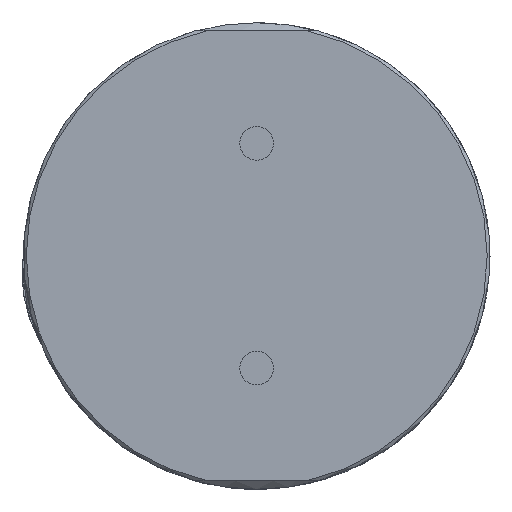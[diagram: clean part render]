
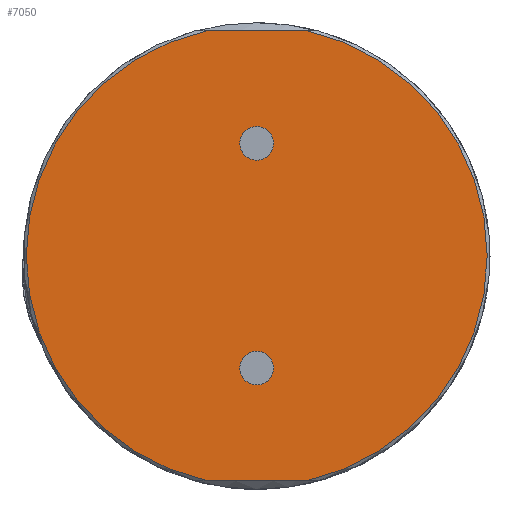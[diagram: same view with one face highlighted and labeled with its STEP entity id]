
A CAD part, top view. The second image highlights one B-rep face of the part: STEP entity #7050.
In plain terms, the highlighted planar face has unit normal (0, 0, 1).
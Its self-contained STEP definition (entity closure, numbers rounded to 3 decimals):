
#102 = VERTEX_POINT ( 'NONE', #9786 ) ;
#131 = EDGE_CURVE ( 'NONE', #17563, #5014, #10122, .T. ) ;
#1362 = CARTESIAN_POINT ( 'NONE',  ( 9., -40., 42. ) ) ;
#1460 = CIRCLE ( 'NONE', #10429, 3. ) ;
#1881 = CARTESIAN_POINT ( 'NONE',  ( -32.875, 40., 42. ) ) ;
#4517 = LINE ( 'NONE', #1881, #22561 ) ;
#4713 = ORIENTED_EDGE ( 'NONE', *, *, #29770, .T. ) ;
#5014 = VERTEX_POINT ( 'NONE', #29981 ) ;
#5610 = DIRECTION ( 'NONE',  ( 1., 0., 0. ) ) ;
#6154 = CIRCLE ( 'NONE', #17798, 41. ) ;
#6658 = CIRCLE ( 'NONE', #14066, 41. ) ;
#6840 = EDGE_LOOP ( 'NONE', ( #24480 ) ) ;
#7050 = ADVANCED_FACE ( 'NONE', ( #26232, #13733, #8750 ), #18789, .T. ) ;
#7959 = EDGE_CURVE ( 'NONE', #26824, #26824, #1460, .T. ) ;
#8750 = FACE_OUTER_BOUND ( 'NONE', #16490, .T. ) ;
#8802 = CARTESIAN_POINT ( 'NONE',  ( 0., 0., 42. ) ) ;
#9725 = DIRECTION ( 'NONE',  ( 1., 0., 0. ) ) ;
#9786 = CARTESIAN_POINT ( 'NONE',  ( -9., 40., 42. ) ) ;
#10122 = LINE ( 'NONE', #30069, #28617 ) ;
#10429 = AXIS2_PLACEMENT_3D ( 'NONE', #27079, #24765, #25068 ) ;
#13561 = CARTESIAN_POINT ( 'NONE',  ( 9., 40., 42. ) ) ;
#13636 = ORIENTED_EDGE ( 'NONE', *, *, #17330, .F. ) ;
#13733 = FACE_BOUND ( 'NONE', #6840, .T. ) ;
#14066 = AXIS2_PLACEMENT_3D ( 'NONE', #8802, #32311, #9725 ) ;
#14457 = CARTESIAN_POINT ( 'NONE',  ( -3., -20., 42. ) ) ;
#15241 = AXIS2_PLACEMENT_3D ( 'NONE', #15531, #22777, #22938 ) ;
#15531 = CARTESIAN_POINT ( 'NONE',  ( 0., 20., 42. ) ) ;
#16490 = EDGE_LOOP ( 'NONE', ( #19102, #4713, #13636, #28860 ) ) ;
#16883 = CARTESIAN_POINT ( 'NONE',  ( 3., 20., 42. ) ) ;
#16910 = DIRECTION ( 'NONE',  ( 1., 0., 0. ) ) ;
#17330 = EDGE_CURVE ( 'NONE', #102, #31583, #4517, .T. ) ;
#17563 = VERTEX_POINT ( 'NONE', #1362 ) ;
#17798 = AXIS2_PLACEMENT_3D ( 'NONE', #18273, #18110, #17961 ) ;
#17961 = DIRECTION ( 'NONE',  ( 1., 0., 0. ) ) ;
#18110 = DIRECTION ( 'NONE',  ( 0., 0., 1. ) ) ;
#18273 = CARTESIAN_POINT ( 'NONE',  ( 0., 0., 42. ) ) ;
#18392 = CIRCLE ( 'NONE', #15241, 3. ) ;
#18789 = PLANE ( 'NONE',  #22608 ) ;
#19102 = ORIENTED_EDGE ( 'NONE', *, *, #131, .F. ) ;
#19822 = DIRECTION ( 'NONE',  ( -1., 0., 0. ) ) ;
#20433 = EDGE_LOOP ( 'NONE', ( #20836 ) ) ;
#20836 = ORIENTED_EDGE ( 'NONE', *, *, #21596, .F. ) ;
#21596 = EDGE_CURVE ( 'NONE', #28760, #28760, #18392, .T. ) ;
#22561 = VECTOR ( 'NONE', #16910, 1000. ) ;
#22608 = AXIS2_PLACEMENT_3D ( 'NONE', #28867, #28205, #5610 ) ;
#22777 = DIRECTION ( 'NONE',  ( 0., 0., 1. ) ) ;
#22938 = DIRECTION ( 'NONE',  ( 1., 0., 0. ) ) ;
#24480 = ORIENTED_EDGE ( 'NONE', *, *, #7959, .F. ) ;
#24765 = DIRECTION ( 'NONE',  ( 0., 0., 1. ) ) ;
#24879 = EDGE_CURVE ( 'NONE', #102, #5014, #6658, .T. ) ;
#25068 = DIRECTION ( 'NONE',  ( -1., 0., 0. ) ) ;
#26232 = FACE_BOUND ( 'NONE', #20433, .T. ) ;
#26824 = VERTEX_POINT ( 'NONE', #14457 ) ;
#27079 = CARTESIAN_POINT ( 'NONE',  ( 0., -20., 42. ) ) ;
#28205 = DIRECTION ( 'NONE',  ( 0., 0., 1. ) ) ;
#28617 = VECTOR ( 'NONE', #19822, 1000. ) ;
#28760 = VERTEX_POINT ( 'NONE', #16883 ) ;
#28860 = ORIENTED_EDGE ( 'NONE', *, *, #24879, .T. ) ;
#28867 = CARTESIAN_POINT ( 'NONE',  ( 0., 0., 42. ) ) ;
#29770 = EDGE_CURVE ( 'NONE', #17563, #31583, #6154, .T. ) ;
#29981 = CARTESIAN_POINT ( 'NONE',  ( -9., -40., 42. ) ) ;
#30069 = CARTESIAN_POINT ( 'NONE',  ( -55.114, -40., 42. ) ) ;
#31583 = VERTEX_POINT ( 'NONE', #13561 ) ;
#32311 = DIRECTION ( 'NONE',  ( 0., 0., 1. ) ) ;
